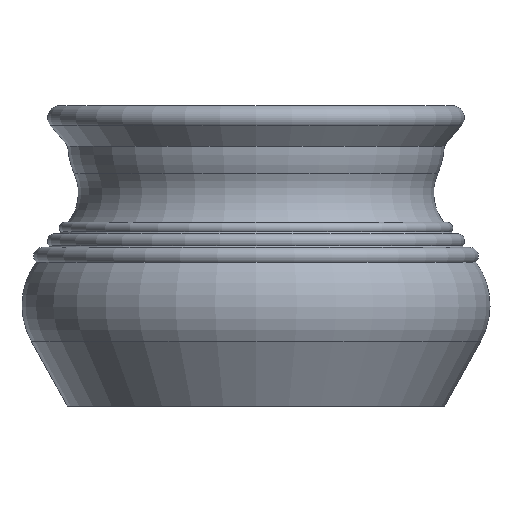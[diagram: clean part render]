
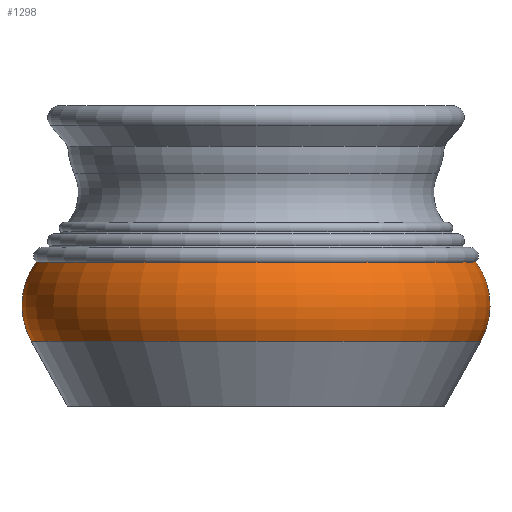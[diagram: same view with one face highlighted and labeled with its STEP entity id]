
A CAD part, front view. The second image highlights one B-rep face of the part: STEP entity #1298.
In plain terms, the highlighted toroidal (fillet/blend) face has major radius 66.81 mm and minor radius 30.55 mm.
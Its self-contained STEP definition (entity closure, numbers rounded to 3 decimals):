
#22=TOROIDAL_SURFACE('',#1475,66.81,30.55);
#164=FACE_OUTER_BOUND('',#280,.T.);
#280=EDGE_LOOP('',(#1187,#1188,#1189,#1190));
#517=CIRCLE('',#1439,93.488);
#539=CIRCLE('',#1476,91.512);
#540=CIRCLE('',#1477,30.55);
#642=VERTEX_POINT('',#2198);
#657=VERTEX_POINT('',#2257);
#805=EDGE_CURVE('',#642,#642,#517,.T.);
#834=EDGE_CURVE('',#657,#657,#539,.T.);
#835=EDGE_CURVE('',#657,#642,#540,.T.);
#1187=ORIENTED_EDGE('',*,*,#834,.F.);
#1188=ORIENTED_EDGE('',*,*,#835,.T.);
#1189=ORIENTED_EDGE('',*,*,#805,.T.);
#1190=ORIENTED_EDGE('',*,*,#835,.F.);
#1298=ADVANCED_FACE('',(#164),#22,.T.);
#1439=AXIS2_PLACEMENT_3D('',#2199,#1805,#1806);
#1475=AXIS2_PLACEMENT_3D('',#2256,#1884,#1885);
#1476=AXIS2_PLACEMENT_3D('',#2258,#1886,#1887);
#1477=AXIS2_PLACEMENT_3D('',#2259,#1888,#1889);
#1805=DIRECTION('center_axis',(0.,0.,1.));
#1806=DIRECTION('ref_axis',(1.,0.,0.));
#1884=DIRECTION('center_axis',(0.,0.,1.));
#1885=DIRECTION('ref_axis',(1.,0.,0.));
#1886=DIRECTION('center_axis',(0.,0.,1.));
#1887=DIRECTION('ref_axis',(1.,0.,0.));
#1888=DIRECTION('center_axis',(0.,-1.,0.));
#1889=DIRECTION('ref_axis',(-1.,0.,0.));
#2198=CARTESIAN_POINT('',(-93.488,0.,27.115));
#2199=CARTESIAN_POINT('Origin',(0.,0.,27.115));
#2256=CARTESIAN_POINT('Origin',(0.,0.,42.));
#2257=CARTESIAN_POINT('',(-91.512,0.,59.976));
#2258=CARTESIAN_POINT('Origin',(0.,0.,59.976));
#2259=CARTESIAN_POINT('Origin',(-66.81,0.,
42.));
